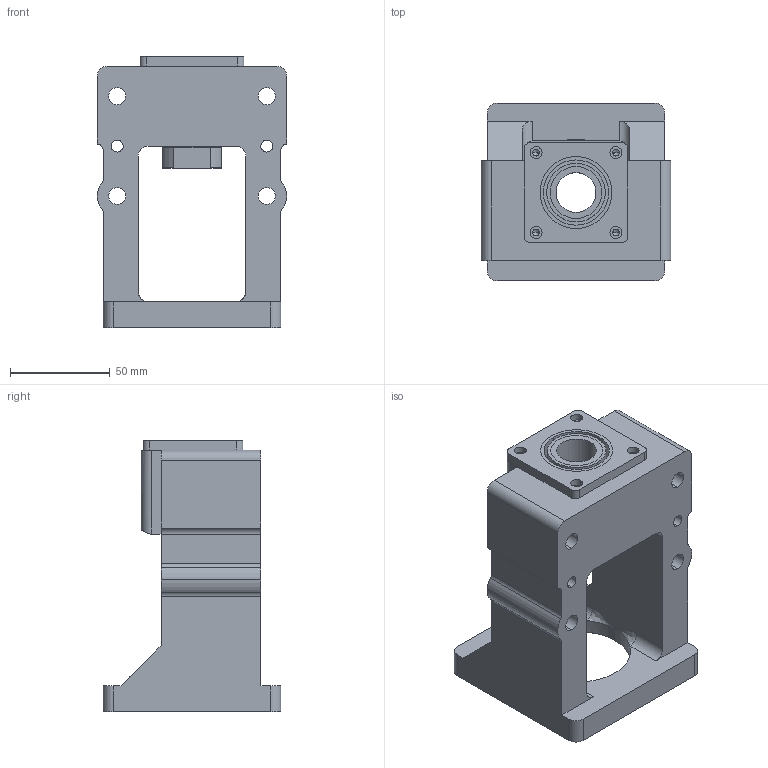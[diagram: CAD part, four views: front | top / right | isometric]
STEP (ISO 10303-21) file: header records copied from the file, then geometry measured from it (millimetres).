
FILE_DESCRIPTION (( 'STEP AP203' ), '1' );
FILE_NAME ('20-80釱.STEP', '2020-08-08T11:59:40', ( '' ), ( '' ), 'SwSTEP 2.0', 'SolidWorks 2020', '' );
FILE_SCHEMA (( 'CONFIG_CONTROL_DESIGN' ));
Length unit declared in the file: millimetre
Products named in the file (6): 深沟球轴承6004_Rolling bearings 6004 GB 276-94; 粣杶20-80釱; 20-80釱; RN20; 蚐猾20-80
Assembly tree (6 placements, depth 2):
  20-80釱
    20-80釱
    深沟球轴承6004_Rolling bearings 6004 GB 276-94  x2
    RN20
    粣杶20-80釱
    蚐猾20-80
Bounding box: 95 x 89 x 136 mm (x, y, z)
Volume: 395217 mm3; surface area: 109316.2 mm2
Topology: 9 solids, 9 shells, 418 faces, 1545 edges, 1022 vertices
Faces by surface type: cylinder 145, torus 112, plane 67, sphere 64, cone 26, bspline 4
Entity records: 12709 total; most frequent: CARTESIAN_POINT 3642, ORIENTED_EDGE 1842, DIRECTION 1743, EDGE_CURVE 921, AXIS2_PLACEMENT_3D 751, VERTEX_POINT 614, CIRCLE 432, EDGE_LOOP 377
